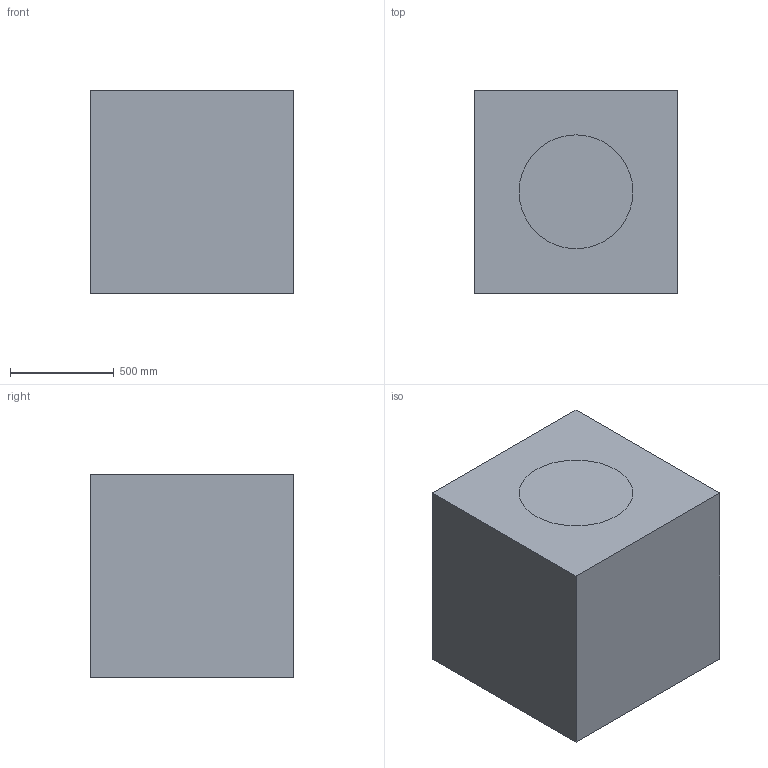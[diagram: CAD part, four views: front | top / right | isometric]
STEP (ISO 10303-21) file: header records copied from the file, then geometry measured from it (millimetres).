
FILE_DESCRIPTION(('FreeCAD Model'),'2;1');
FILE_NAME('Open CASCADE Shape Model','2026-04-01T10:32:58',('FreeCAD'),( 'FreeCAD'),'Open CASCADE STEP processor 7.8','FreeCAD','Unknown');
FILE_SCHEMA(('AUTOMOTIVE_DESIGN { 1 0 10303 214 1 1 1 1 }'));
Length unit declared in the file: millimetre
Products named in the file (1): Open CASCADE STEP translator 7.8 5
Bounding box: 980 x 980 x 980 mm (x, y, z)
Surface area: 6319975.9 mm2
Topology: 2 solids, 2 shells, 9 faces, 15 edges, 10 vertices
Faces by surface type: plane 8, cylinder 1
Full cylindrical faces by diameter (mm): 548.8 x1
Entity records: 219 total; most frequent: DIRECTION 37, CARTESIAN_POINT 35, ORIENTED_EDGE 30, EDGE_CURVE 15, LINE 13, VECTOR 13, AXIS2_PLACEMENT_3D 12, VERTEX_POINT 10
